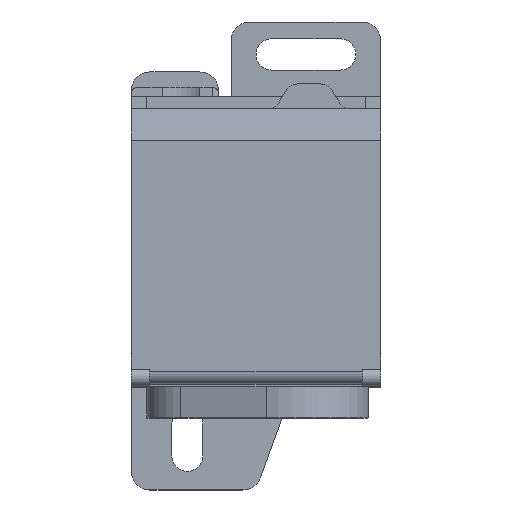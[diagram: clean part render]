
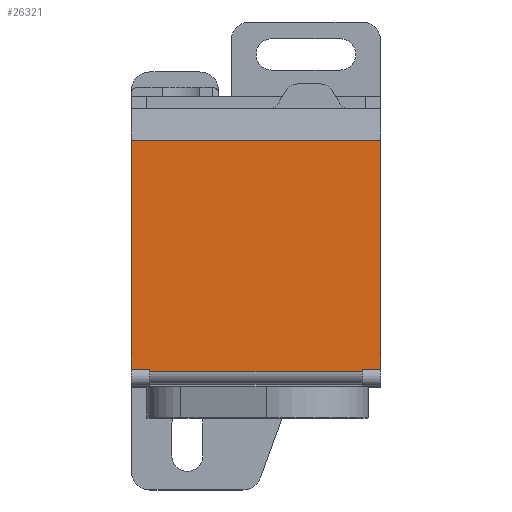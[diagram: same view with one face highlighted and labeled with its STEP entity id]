
A CAD part, top view. The second image highlights one B-rep face of the part: STEP entity #26321.
In plain terms, the highlighted planar face has unit normal (0, 0, 1).
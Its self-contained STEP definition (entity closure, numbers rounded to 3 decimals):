
#26321 = ADVANCED_FACE('',(#26322),#26337,.T.);
#26322 = FACE_BOUND('',#26323,.T.);
#26323 = EDGE_LOOP('',(#26324,#26349,#26365,#26381,#26397,#26415,#26431,
    #26447));
#26324 = ORIENTED_EDGE('',*,*,#26325,.T.);
#26325 = EDGE_CURVE('',#26326,#26328,#26330,.T.);
#26326 = VERTEX_POINT('',#26327);
#26327 = CARTESIAN_POINT('',(0.,-43.7,
    42.5));
#26328 = VERTEX_POINT('',#26329);
#26329 = CARTESIAN_POINT('',(3.,-43.7,42.5));
#26330 = SURFACE_CURVE('',#26331,(#26336),.PCURVE_S1.);
#26331 = B_SPLINE_CURVE_WITH_KNOTS('',3,(#26332,#26333,#26334,#26335),
  .UNSPECIFIED.,.F.,.F.,(4,4),(0.,1.),.PIECEWISE_BEZIER_KNOTS.);
#26332 = CARTESIAN_POINT('',(0.,-43.7,42.5));
#26333 = CARTESIAN_POINT('',(1.,-43.7,42.5));
#26334 = CARTESIAN_POINT('',(2.,-43.7,42.5));
#26335 = CARTESIAN_POINT('',(3.,-43.7,42.5));
#26336 = PCURVE('',#26337,#26342);
#26337 = PLANE('',#26338);
#26338 = AXIS2_PLACEMENT_3D('',#26339,#26340,#26341);
#26339 = CARTESIAN_POINT('',(0.,-8.,42.5));
#26340 = DIRECTION('',(0.,0.,1.));
#26341 = DIRECTION('',(0.,-1.,0.));
#26342 = DEFINITIONAL_REPRESENTATION('',(#26343),#26348);
#26343 = B_SPLINE_CURVE_WITH_KNOTS('',3,(#26344,#26345,#26346,#26347),
  .UNSPECIFIED.,.F.,.F.,(4,4),(0.,1.),.PIECEWISE_BEZIER_KNOTS.);
#26344 = CARTESIAN_POINT('',(35.7,0.));
#26345 = CARTESIAN_POINT('',(35.7,1.));
#26346 = CARTESIAN_POINT('',(35.7,2.));
#26347 = CARTESIAN_POINT('',(35.7,3.));
#26348 = ( GEOMETRIC_REPRESENTATION_CONTEXT(2) 
PARAMETRIC_REPRESENTATION_CONTEXT() REPRESENTATION_CONTEXT('2D SPACE',''
  ) );
#26349 = ORIENTED_EDGE('',*,*,#26350,.T.);
#26350 = EDGE_CURVE('',#26328,#26351,#26353,.T.);
#26351 = VERTEX_POINT('',#26352);
#26352 = CARTESIAN_POINT('',(3.,-44.125,42.5));
#26353 = SURFACE_CURVE('',#26354,(#26358),.PCURVE_S1.);
#26354 = LINE('',#26355,#26356);
#26355 = CARTESIAN_POINT('',(3.,-8.,42.5));
#26356 = VECTOR('',#26357,1.);
#26357 = DIRECTION('',(0.,-1.,0.));
#26358 = PCURVE('',#26337,#26359);
#26359 = DEFINITIONAL_REPRESENTATION('',(#26360),#26364);
#26360 = LINE('',#26361,#26362);
#26361 = CARTESIAN_POINT('',(0.,3.));
#26362 = VECTOR('',#26363,1.);
#26363 = DIRECTION('',(1.,0.));
#26364 = ( GEOMETRIC_REPRESENTATION_CONTEXT(2) 
PARAMETRIC_REPRESENTATION_CONTEXT() REPRESENTATION_CONTEXT('2D SPACE',''
  ) );
#26365 = ORIENTED_EDGE('',*,*,#26366,.F.);
#26366 = EDGE_CURVE('',#26367,#26351,#26369,.T.);
#26367 = VERTEX_POINT('',#26368);
#26368 = CARTESIAN_POINT('',(37.,-44.125,42.5));
#26369 = SURFACE_CURVE('',#26370,(#26374),.PCURVE_S1.);
#26370 = LINE('',#26371,#26372);
#26371 = CARTESIAN_POINT('',(37.,-44.125,42.5));
#26372 = VECTOR('',#26373,1.);
#26373 = DIRECTION('',(-1.,0.,0.));
#26374 = PCURVE('',#26337,#26375);
#26375 = DEFINITIONAL_REPRESENTATION('',(#26376),#26380);
#26376 = LINE('',#26377,#26378);
#26377 = CARTESIAN_POINT('',(36.125,37.));
#26378 = VECTOR('',#26379,1.);
#26379 = DIRECTION('',(0.,-1.));
#26380 = ( GEOMETRIC_REPRESENTATION_CONTEXT(2) 
PARAMETRIC_REPRESENTATION_CONTEXT() REPRESENTATION_CONTEXT('2D SPACE',''
  ) );
#26381 = ORIENTED_EDGE('',*,*,#26382,.F.);
#26382 = EDGE_CURVE('',#26383,#26367,#26385,.T.);
#26383 = VERTEX_POINT('',#26384);
#26384 = CARTESIAN_POINT('',(37.,-43.7,42.5));
#26385 = SURFACE_CURVE('',#26386,(#26390),.PCURVE_S1.);
#26386 = LINE('',#26387,#26388);
#26387 = CARTESIAN_POINT('',(37.,-8.,42.5));
#26388 = VECTOR('',#26389,1.);
#26389 = DIRECTION('',(0.,-1.,0.));
#26390 = PCURVE('',#26337,#26391);
#26391 = DEFINITIONAL_REPRESENTATION('',(#26392),#26396);
#26392 = LINE('',#26393,#26394);
#26393 = CARTESIAN_POINT('',(0.,37.));
#26394 = VECTOR('',#26395,1.);
#26395 = DIRECTION('',(1.,0.));
#26396 = ( GEOMETRIC_REPRESENTATION_CONTEXT(2) 
PARAMETRIC_REPRESENTATION_CONTEXT() REPRESENTATION_CONTEXT('2D SPACE',''
  ) );
#26397 = ORIENTED_EDGE('',*,*,#26398,.T.);
#26398 = EDGE_CURVE('',#26383,#26399,#26401,.T.);
#26399 = VERTEX_POINT('',#26400);
#26400 = CARTESIAN_POINT('',(40.,-43.7,42.5));
#26401 = SURFACE_CURVE('',#26402,(#26407),.PCURVE_S1.);
#26402 = B_SPLINE_CURVE_WITH_KNOTS('',3,(#26403,#26404,#26405,#26406),
  .UNSPECIFIED.,.F.,.F.,(4,4),(0.,1.),.PIECEWISE_BEZIER_KNOTS.);
#26403 = CARTESIAN_POINT('',(37.,-43.7,42.5));
#26404 = CARTESIAN_POINT('',(38.,-43.7,42.5));
#26405 = CARTESIAN_POINT('',(39.,-43.7,42.5));
#26406 = CARTESIAN_POINT('',(40.,-43.7,42.5));
#26407 = PCURVE('',#26337,#26408);
#26408 = DEFINITIONAL_REPRESENTATION('',(#26409),#26414);
#26409 = B_SPLINE_CURVE_WITH_KNOTS('',3,(#26410,#26411,#26412,#26413),
  .UNSPECIFIED.,.F.,.F.,(4,4),(0.,1.),.PIECEWISE_BEZIER_KNOTS.);
#26410 = CARTESIAN_POINT('',(35.7,37.));
#26411 = CARTESIAN_POINT('',(35.7,38.));
#26412 = CARTESIAN_POINT('',(35.7,39.));
#26413 = CARTESIAN_POINT('',(35.7,40.));
#26414 = ( GEOMETRIC_REPRESENTATION_CONTEXT(2) 
PARAMETRIC_REPRESENTATION_CONTEXT() REPRESENTATION_CONTEXT('2D SPACE',''
  ) );
#26415 = ORIENTED_EDGE('',*,*,#26416,.F.);
#26416 = EDGE_CURVE('',#26417,#26399,#26419,.T.);
#26417 = VERTEX_POINT('',#26418);
#26418 = CARTESIAN_POINT('',(40.,-7.,42.5));
#26419 = SURFACE_CURVE('',#26420,(#26424),.PCURVE_S1.);
#26420 = LINE('',#26421,#26422);
#26421 = CARTESIAN_POINT('',(40.,-43.7,42.5));
#26422 = VECTOR('',#26423,1.);
#26423 = DIRECTION('',(0.,-1.,0.));
#26424 = PCURVE('',#26337,#26425);
#26425 = DEFINITIONAL_REPRESENTATION('',(#26426),#26430);
#26426 = LINE('',#26427,#26428);
#26427 = CARTESIAN_POINT('',(35.7,40.));
#26428 = VECTOR('',#26429,1.);
#26429 = DIRECTION('',(1.,0.));
#26430 = ( GEOMETRIC_REPRESENTATION_CONTEXT(2) 
PARAMETRIC_REPRESENTATION_CONTEXT() REPRESENTATION_CONTEXT('2D SPACE',''
  ) );
#26431 = ORIENTED_EDGE('',*,*,#26432,.T.);
#26432 = EDGE_CURVE('',#26417,#26433,#26435,.T.);
#26433 = VERTEX_POINT('',#26434);
#26434 = CARTESIAN_POINT('',(0.,-7.,42.5));
#26435 = SURFACE_CURVE('',#26436,(#26440),.PCURVE_S1.);
#26436 = LINE('',#26437,#26438);
#26437 = CARTESIAN_POINT('',(0.,-7.,42.5));
#26438 = VECTOR('',#26439,1.);
#26439 = DIRECTION('',(-1.,0.,0.));
#26440 = PCURVE('',#26337,#26441);
#26441 = DEFINITIONAL_REPRESENTATION('',(#26442),#26446);
#26442 = LINE('',#26443,#26444);
#26443 = CARTESIAN_POINT('',(-1.,0.));
#26444 = VECTOR('',#26445,1.);
#26445 = DIRECTION('',(0.,-1.));
#26446 = ( GEOMETRIC_REPRESENTATION_CONTEXT(2) 
PARAMETRIC_REPRESENTATION_CONTEXT() REPRESENTATION_CONTEXT('2D SPACE',''
  ) );
#26447 = ORIENTED_EDGE('',*,*,#26448,.T.);
#26448 = EDGE_CURVE('',#26433,#26326,#26449,.T.);
#26449 = SURFACE_CURVE('',#26450,(#26454),.PCURVE_S1.);
#26450 = LINE('',#26451,#26452);
#26451 = CARTESIAN_POINT('',(0.,-8.,42.5));
#26452 = VECTOR('',#26453,1.);
#26453 = DIRECTION('',(0.,-1.,0.));
#26454 = PCURVE('',#26337,#26455);
#26455 = DEFINITIONAL_REPRESENTATION('',(#26456),#26460);
#26456 = LINE('',#26457,#26458);
#26457 = CARTESIAN_POINT('',(0.,0.));
#26458 = VECTOR('',#26459,1.);
#26459 = DIRECTION('',(1.,0.));
#26460 = ( GEOMETRIC_REPRESENTATION_CONTEXT(2) 
PARAMETRIC_REPRESENTATION_CONTEXT() REPRESENTATION_CONTEXT('2D SPACE',''
  ) );
